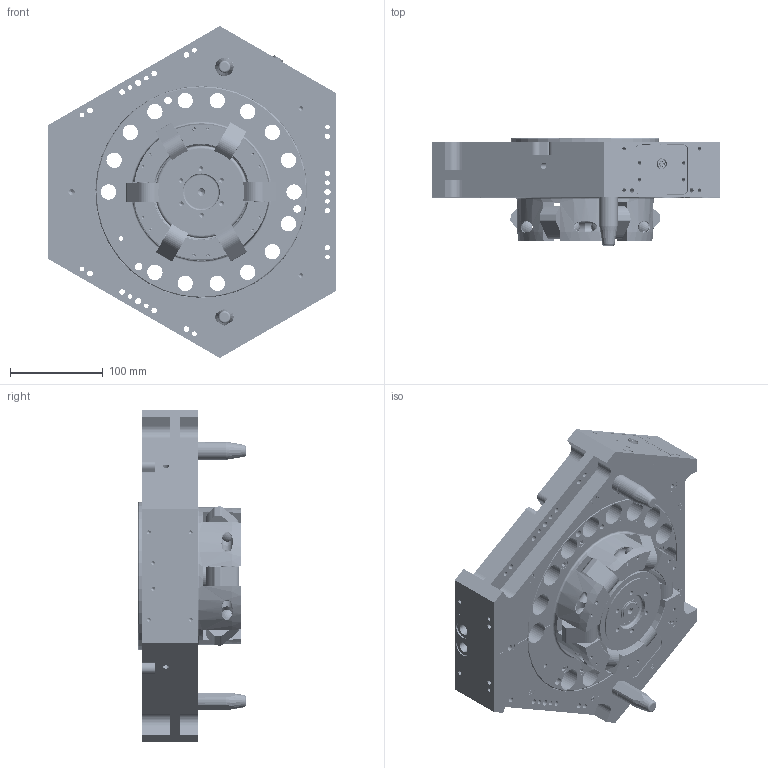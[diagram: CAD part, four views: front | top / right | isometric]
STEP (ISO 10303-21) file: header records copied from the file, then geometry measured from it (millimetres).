
FILE_DESCRIPTION (( 'STEP AP214' ), '1' );
FILE_NAME ('1501-E99A REV01.STEP', '2019-07-11T16:55:25', ( '' ), ( '' ), 'SwSTEP 2.0', 'SolidWorks 2019', '' );
FILE_SCHEMA (( 'AUTOMOTIVE_DESIGN' ));
Length unit declared in the file: millimetre
Products named in the file (71): 1502-C05N; 49102; 49438; 1502-D02N; 1407-P54N; 1501-E83N; 49986_91595A755; New_1501-C87A; 0002-P28N; New_1800708A; 1405-P93N; 1405-P91N; 49497; 85551-P1008; 1502-C07N; 1407-P43N; 1405-P90N; 0601-P65N; 88503-P1084; 0201-P17N; 1405-P95N; 1502-D01A; 1304-P33N; 49045_DIN 912 M8 x 20 --- 20N; 1800706P; 91500-p1007; 1800705P; 1502-C13A; 1407-P57N; 1502-C03N; 1500-C07N; 1800402P_91217A170; 1407-P39N; 48438; 1501-E99A REV01; 1501-D60N; 1502-C06N; 1407-P56N; 49144; 1211-P34N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
Assembly tree (174 placements, depth 5):
  1501-E99A REV01
    1501-E83N
    85551-P1008
    1501-D59A
      1501-D60N
      New_1501-C87A
        1406-D82A
          1405-P90N
          1405-P91N  x2
          1405-P92N
          1405-P93N
          1407-P40N  x2
          1407-P42N  x2
          1405-P95N  x4
          1407-P41N  x2
          1407-P53N  x3
          1407-P55N  x2
          1407-P54N  x3
          1407-P39N  x2
          1407-P56N
          1700442P  x6
          1407-P57N
          1700444P  x2
          1407-P43N  x4
          1800707P  x2
          1800705P  x2
          1800706P  x2
          1304-P35N  x2
          1304-P44N
          1304-P45N
          1304-P33N  x2
        New_1800708A
          New_1406-C84N
          95505-P1087  x6
          87515-P2047  x6
          1211-P35N
          1211-P34N
          0002-P28N  x4
        1405-P91N  x2
        49497  x4
        49438  x2
      1500-C07N
      1406-C49N
      0601-P65N  x4
      96504-P1019  x4
      49144  x4
      88503-P1084  x4
      49024  x6
      49438  x6
    1502-D01A
      1502-D02N
      1502-C03N
      1502-C09N  x6
      0810-P34N
      99508-P1022
      91500-p1007
      85943-P1021
      1502-P35N
      91500-P1038  x2
      48438  x7
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Bounding box: 310 x 116 x 357.96 mm (x, y, z)
Volume: 4307913.5 mm3; surface area: 791981.6 mm2
Topology: 194 solids, 194 shells, 7873 faces, 19913 edges, 13069 vertices
Faces by surface type: plane 5215, cylinder 1155, bspline 1075, cone 327, torus 87, sphere 14
Full cylindrical faces by diameter (mm): 0.61 x35, 0.762 x4, 0.8 x3, 0.889 x6, 0.98 x6, 1.016 x12, 1.15 x6, 1.17 x6, 1.27 x5, 1.37 x12, 1.5 x6, 1.549 x6, 1.6 x18, 1.605 x6, 1.68 x6, 1.7 x6, 1.75 x5, 1.81 x6, 1.96 x6, 2 x4, 2.3 x4, 2.34 x4, 2.35 x8, 2.5 x4, 3 x26, 3.2 x4, 3.3 x13, 3.5 x9, 3.53 x16, 3.986 x6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
Entity records: 190971 total; most frequent: CARTESIAN_POINT 73010, ORIENTED_EDGE 21860, DIRECTION 18843, EDGE_CURVE 10930, VECTOR 7897, LINE 7897, VERTEX_POINT 7562, EDGE_LOOP 6172
